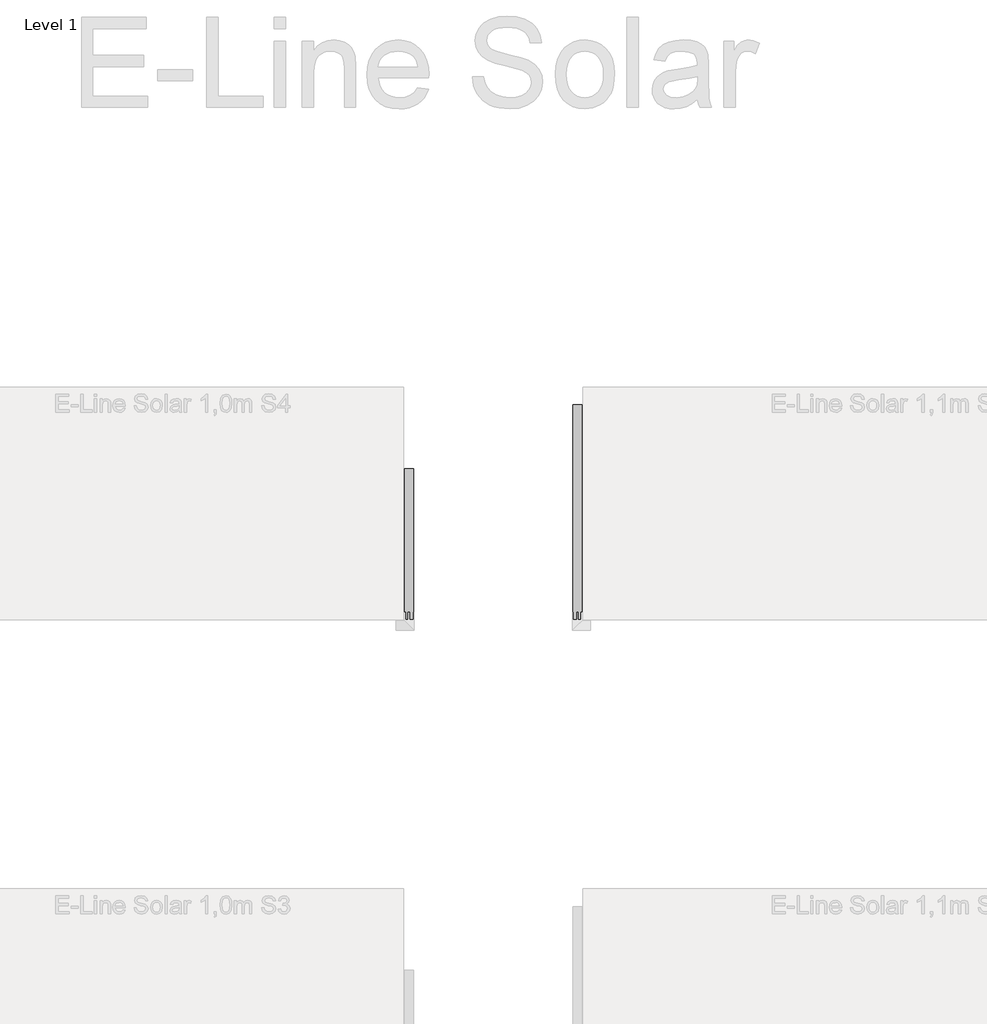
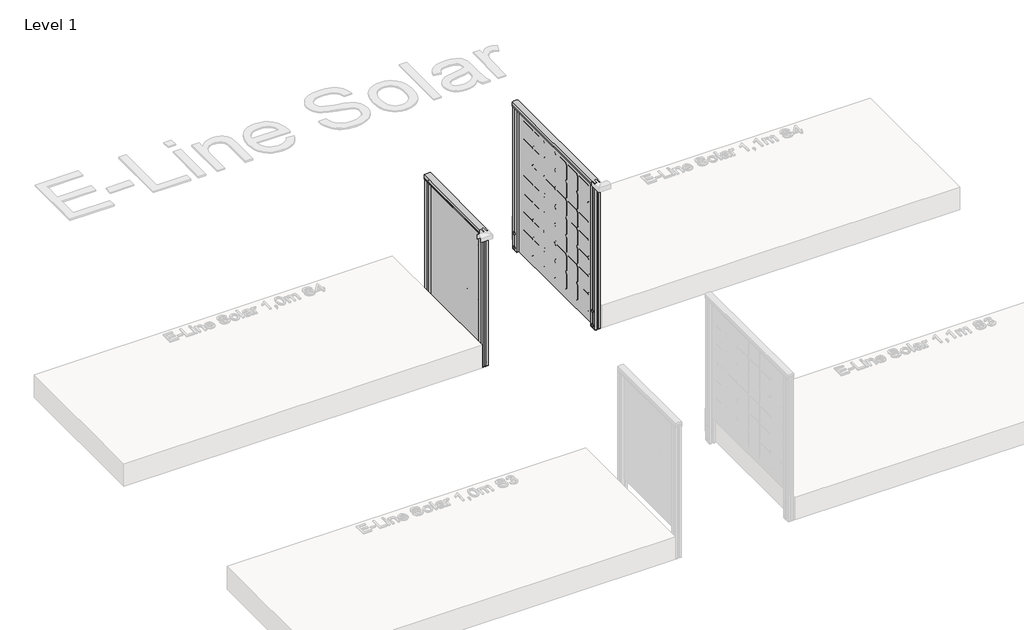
# One storey, part 38 of 66: 2 railings.
"""IFC4 building model written with IfcOpenShell, lengths in millimetres."""

import ifcopenshell
import ifcopenshell.guid

model = None  # the IFC model being written
_history = None  # IfcOwnerHistory: only IFC2X3 demands one
_inside = {}  # id of a spatial element -> (the spatial element, [elements in it])
_under = {}  # id of a project, library or spatial element -> (it, [spatial elements below it])
_declared = {}  # id of a project -> (the project, [libraries it declares])
_typed = {}  # id of a type object -> (the type object, [elements of that type])
_made_of = {}  # id of a material, layer set ... -> (it, [elements and type objects made of it])


def new_model(schema):
    """Start an empty IFC model of exactly this schema.

    Asked for "IFC4X3", IfcOpenShell would pick the latest addendum, in which some entities
    have other attributes; the version numbers below select the first issue.
    IFC2X3 requires an IfcOwnerHistory on every rooted entity: one is made here for all.
    """
    global model, _history
    if schema == "IFC4X3":
        model = ifcopenshell.file(schema_version=(4, 3, 0, 0))
    else:
        model = ifcopenshell.file(schema=schema)
    _inside.clear()
    _under.clear()
    _declared.clear()
    _typed.clear()
    _made_of.clear()
    _history = None
    if model.schema == "IFC2X3":
        org = make("IfcOrganization", Name="unknown")
        user = make(
            "IfcPersonAndOrganization",
            ThePerson=make("IfcPerson", FamilyName="unknown"),
            TheOrganization=org,
        )
        app = make(
            "IfcApplication",
            ApplicationDeveloper=org,
            Version="unknown",
            ApplicationFullName="unknown",
            ApplicationIdentifier="unknown",
        )
        _history = make(
            "IfcOwnerHistory",
            OwningUser=user,
            OwningApplication=app,
            ChangeAction="ADDED",
            CreationDate=0,
        )
    return model


def make(cls, **values):
    """One entity of the class cls with the attributes given. An attribute that is None is left unset."""
    return model.create_entity(
        cls, **{name: value for name, value in values.items() if value is not None}
    )


def rooted(cls, **values):
    """An entity with a GlobalId (a new one), such as an element, a storey or a relation."""
    return make(cls, GlobalId=ifcopenshell.guid.new(), OwnerHistory=_history, **values)


def si_unit(unit_type, name, prefix=None):
    """IfcSIUnit, for example si_unit("LENGTHUNIT", "METRE", prefix="MILLI")."""
    return make("IfcSIUnit", UnitType=unit_type, Prefix=prefix, Name=name)


def assignment(units):
    """IfcUnitAssignment: the units of a project."""
    return None if units is None else make("IfcUnitAssignment", Units=units)


def point(xyz):
    """IfcCartesianPoint."""
    return None if xyz is None else make("IfcCartesianPoint", Coordinates=xyz)


def direction(xyz):
    """IfcDirection."""
    return None if xyz is None else make("IfcDirection", DirectionRatios=xyz)


def frame(location, z_axis=None, x_axis=None):
    """IfcAxis2Placement3D, a coordinate frame: its origin and axes. An axis left out is left unset."""
    return make(
        "IfcAxis2Placement3D",
        Location=point(location),
        Axis=direction(z_axis),
        RefDirection=direction(x_axis),
    )


def frame_2d(location, x_axis=None):
    """IfcAxis2Placement2D, a coordinate frame in the plane: its origin and x axis."""
    return make(
        "IfcAxis2Placement2D", Location=point(location), RefDirection=direction(x_axis)
    )


def origin():
    """The frame at (0, 0, 0) with its axes left unset."""
    return frame((0.0, 0.0, 0.0))


def place(relative_to, where):
    """IfcLocalPlacement: puts the frame where relative to a parent placement (None: the world)."""
    return make(
        "IfcLocalPlacement", PlacementRelTo=relative_to, RelativePlacement=where
    )


def context(
    kind, dimensions, precision=None, world=None, true_north=None, identifier=None
):
    """IfcGeometricRepresentationContext, for example the 3D "Model" context."""
    return make(
        "IfcGeometricRepresentationContext",
        ContextIdentifier=identifier,
        ContextType=kind,
        CoordinateSpaceDimension=dimensions,
        Precision=precision,
        WorldCoordinateSystem=world,
        TrueNorth=true_north,
    )


def project(units=None, contexts=None):
    """IfcProject with its units and contexts."""
    return rooted(
        "IfcProject",
        Name="project",
        RepresentationContexts=contexts,
        UnitsInContext=assignment(units),
    )


def spatial(cls, under=None, at=None, **own):
    """A site, building, storey or space (cls), placed at a placement, below another one or the project."""
    s = rooted(cls, ObjectPlacement=at, **own)
    if under is not None:
        _under.setdefault(under.id(), (under, []))[1].append(s)
    return s


def polyline(points):
    """IfcPolyline through the points."""
    return make("IfcPolyline", Points=[point(p) for p in points])


def circle_curve(where, radius):
    """IfcCircle in the frame where."""
    return make("IfcCircle", Position=where, Radius=radius)


def trimmed(basis, trim1, trim2, sense, master):
    """IfcTrimmedCurve: the piece of a basis curve between two trims."""
    return make(
        "IfcTrimmedCurve",
        BasisCurve=basis,
        Trim1=trim1,
        Trim2=trim2,
        SenseAgreement=sense,
        MasterRepresentation=master,
    )


def segment(curve, same_sense, transition):
    """IfcCompositeCurveSegment."""
    return make(
        "IfcCompositeCurveSegment",
        Transition=transition,
        SameSense=same_sense,
        ParentCurve=curve,
    )


def composite_curve(segments, self_intersect=None):
    """IfcCompositeCurve: segments joined end to end."""
    return make("IfcCompositeCurve", Segments=segments, SelfIntersect=self_intersect)


def outline(outer, holes=None, kind="AREA"):
    """IfcArbitraryClosedProfileDef: a profile drawn as a closed curve; with holes, ...WithVoids."""
    if holes is None:
        return make("IfcArbitraryClosedProfileDef", ProfileType=kind, OuterCurve=outer)
    return make(
        "IfcArbitraryProfileDefWithVoids",
        ProfileType=kind,
        OuterCurve=outer,
        InnerCurves=holes,
    )


def extrude(swept, where, along, depth):
    """IfcExtrudedAreaSolid: the profile swept, set in the frame where, extruded along a direction by depth."""
    return make(
        "IfcExtrudedAreaSolid",
        SweptArea=swept,
        Position=where,
        ExtrudedDirection=direction(along),
        Depth=depth,
    )


def shape(context_of_items, identifier, shape_type, items):
    """IfcShapeRepresentation: the items that make up one representation, for example the "Body"."""
    return make(
        "IfcShapeRepresentation",
        ContextOfItems=context_of_items,
        RepresentationIdentifier=identifier,
        RepresentationType=shape_type,
        Items=items,
    )


def made_of(thing, what):
    """Note that an element or type object is made of a material, layer set ...; save() writes the relation."""
    if what is not None:
        _made_of.setdefault(what.id(), (what, []))[1].append(thing)
    return thing


def element(
    cls,
    number,
    at=None,
    inside=None,
    cuts=None,
    type_object=None,
    material=None,
    context=None,
    identifier="Body",
    shape_type=None,
    held_by="IfcProductDefinitionShape",
    body=None,
    shapes=None,
    **own,
):
    """One element of the class cls, such as IfcWall. Its Tag is "e" and its number.

    at: its placement. inside: the storey or other place that contains it. cuts: it is an
    opening in that element (IfcRelVoidsElement). A single representation is given by context,
    identifier, shape_type and body (its items); several are given by shapes. held_by: the class
    of the entity that holds the representations. save() writes the other relations.
    """
    e = rooted(cls, Tag="e%d" % number, ObjectPlacement=at, **own)
    if body is not None:
        shapes = [shape(context, identifier, shape_type, body)]
    if shapes is not None:
        e.Representation = make(held_by, Representations=shapes)
    if inside is not None:
        _inside.setdefault(inside.id(), (inside, []))[1].append(e)
    if cuts is not None:
        rooted(
            "IfcRelVoidsElement", RelatingBuildingElement=cuts, RelatedOpeningElement=e
        )
    if type_object is not None:
        _typed.setdefault(type_object.id(), (type_object, []))[1].append(e)
    return made_of(e, material)


def aggregate(whole, parts):
    """IfcRelAggregates: a whole, such as a stair, and the parts it consists of."""
    return rooted("IfcRelAggregates", RelatingObject=whole, RelatedObjects=parts)


def save(model, path):
    """Write the relations noted so far, then the file.

    IfcRelAggregates (storeys below a building ...), IfcRelContainedInSpatialStructure (elements
    in a storey), IfcRelDefinesByType, IfcRelAssociatesMaterial and IfcRelDeclares: one each for
    every whole, place, type object, material and project.
    """
    for whole, parts in _under.values():
        aggregate(whole, parts)
    for where, things in _inside.values():
        rooted(
            "IfcRelContainedInSpatialStructure",
            RelatedElements=things,
            RelatingStructure=where,
        )
    for kind, things in _typed.values():
        rooted("IfcRelDefinesByType", RelatedObjects=things, RelatingType=kind)
    for what, things in _made_of.values():
        rooted("IfcRelAssociatesMaterial", RelatedObjects=things, RelatingMaterial=what)
    for by, libraries in _declared.values():
        rooted("IfcRelDeclares", RelatingContext=by, RelatedDefinitions=libraries)
    model.write(path)


model = new_model("IFC4")

# Units and contexts
model_context = context("Model", 3, world=origin())
ifc_project = project(units=[si_unit("LENGTHUNIT", "METRE", prefix="MILLI")], contexts=[model_context])

# Site, building, storey
site = spatial("IfcSite", under=ifc_project)
building = spatial("IfcBuilding", under=site)
storey = spatial("IfcBuildingStorey", under=building, Name="Level 1", Elevation=0.0)

# Railings
placement = place(None, origin())
element("IfcRailing", 1, ObjectType="E-Line Solar 1,1m S4 6 columns of solar elements", at=placement, inside=storey, context=model_context, shape_type="SweptSolid", body=[
    extrude(outline(composite_curve([segment(trimmed(circle_curve(frame_2d((1042.6785502, 19265.8109342)), 57.3235687), [point((1094.1390059, 19291.0658945))], [point((1094.1342258, 19240.5462362))], False, "CARTESIAN"), True, "CONTINUOUS"), segment(polyline([(1094.1342258, 19240.5462362), (1067.0235023, 19240.5462362), (1066.4415706, 19241.128168), (1065.8194895, 19240.5060869), (1057.2498847, 19240.5060869), (1057.2498847, 19242.3110398), (1080.4998829, 19242.3110398), (1080.4998829, 19289.306086), (1057.2498847, 19289.306086), (1057.2498847, 19291.0658945), (1065.9694895, 19291.0658945), (1066.5842725, 19290.4511115), (1067.1990555, 19291.0658945), (1094.1390059, 19291.0658945)]), True, "CONTINUOUS")], self_intersect=False)), frame((0.0, 3023.8815979, 0.0), z_axis=(0.0, 1.0, 0.0), x_axis=(0.0, 0.0, 1.0)), (0.0, 0.0, 1.0), 1195.0),
    extrude(outline(polyline([(19265.6306934, 4218.8815979), (19267.4943763, 4218.8815979), (19267.4943763, 3023.8815979), (19265.6306934, 3023.8815979), (19265.6306934, 4218.8815979)])), frame((0.0, 0.0, -200.0), z_axis=(0.0, 0.0, 1.0), x_axis=(1.0, 0.0, 0.0)), (0.0, 0.0, 1.0), 1.1703418),
    extrude(outline(polyline([(19262.1463105, 4218.8815979), (19270.9063105, 4218.8815979), (19270.9063105, 3023.8815979), (19262.1463105, 3023.8815979), (19262.1463105, 4218.8815979)])), frame((0.0, 0.0, -200.0), z_axis=(0.0, 0.0, 1.0), x_axis=(1.0, 0.0, 0.0)), (0.0, 0.0, 1.0), 1280.0),
    extrude(outline(polyline([(0.0, 0.0), (-16.036927, 16.036927), (-16.036927, 139.963073), (0.0, 156.0), (123.9261459, 156.0), (139.963073, 139.963073), (139.963073, 16.036927), (123.9261459, 0.0), (0.0, 0.0)])), frame((19262.0263105, 3945.8815979, 984.4156895), z_axis=(1.0, -5.811291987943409e-12, 0.0), x_axis=(0.0, 0.0, -1.0)), (0.0, 0.0, 1.0), 1.0),
    extrude(outline(polyline([(0.0, 0.0), (-16.036927, 16.036927), (-16.036927, 139.963073), (0.0, 156.0), (123.9261459, 156.0), (139.963073, 139.963073), (139.963073, 16.036927), (123.9261459, 0.0), (0.0, 0.0)])), frame((19262.0263105, 3784.8815979, 984.4156895), z_axis=(1.0, -5.811291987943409e-12, 0.0), x_axis=(0.0, 0.0, -1.0)), (0.0, 0.0, 1.0), 1.0),
    extrude(outline(polyline([(0.0, 0.0), (-16.036927, 16.036927), (-16.036927, 139.963073), (0.0, 156.0), (123.9261459, 156.0), (139.963073, 139.963073), (139.963073, 16.036927), (123.9261459, 0.0), (0.0, 0.0)])), frame((19262.0263105, 3623.8815979, 984.4156895), z_axis=(1.0, -5.811291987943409e-12, 0.0), x_axis=(0.0, 0.0, -1.0)), (0.0, 0.0, 1.0), 1.0),
    extrude(outline(polyline([(0.0, 0.0), (-16.036927, 16.036927), (-16.036927, 139.963073), (0.0, 156.0), (123.9261459, 156.0), (139.963073, 139.963073), (139.963073, 16.036927), (123.9261459, 0.0), (0.0, 0.0)])), frame((19262.0263105, 3140.8815979, 984.4156895), z_axis=(1.0, -5.811291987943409e-12, 0.0), x_axis=(0.0, 0.0, -1.0)), (0.0, 0.0, 1.0), 1.0),
    extrude(outline(polyline([(0.0, 0.0), (-16.036927, 16.036927), (-16.036927, 139.963073), (0.0, 156.0), (123.9261459, 156.0), (139.963073, 139.963073), (139.963073, 16.036927), (123.9261459, 0.0), (0.0, 0.0)])), frame((19262.0263105, 3301.8815979, 984.4156895), z_axis=(1.0, -5.811291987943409e-12, 0.0), x_axis=(0.0, 0.0, -1.0)), (0.0, 0.0, 1.0), 1.0),
    extrude(outline(polyline([(0.0, 0.0), (-16.036927, 16.036927), (-16.036927, 139.963073), (0.0, 156.0), (123.9261459, 156.0), (139.963073, 139.963073), (139.963073, 16.036927), (123.9261459, 0.0), (0.0, 0.0)])), frame((19262.0263105, 3462.8815979, 984.4156895), z_axis=(1.0, -5.811291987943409e-12, 0.0), x_axis=(0.0, 0.0, -1.0)), (0.0, 0.0, 1.0), 1.0),
    extrude(outline(polyline([(0.0, 0.0), (-16.036927, 16.036927), (-16.036927, 139.963073), (0.0, 156.0), (123.9261459, 156.0), (139.963073, 139.963073), (139.963073, 16.036927), (123.9261459, 0.0), (0.0, 0.0)])), frame((19262.0263105, 3945.8815979, 823.4156895), z_axis=(1.0, -5.811291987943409e-12, 0.0), x_axis=(0.0, 0.0, -1.0)), (0.0, 0.0, 1.0), 1.0),
    extrude(outline(polyline([(0.0, 0.0), (-16.036927, 16.036927), (-16.036927, 139.963073), (0.0, 156.0), (123.9261459, 156.0), (139.963073, 139.963073), (139.963073, 16.036927), (123.9261459, 0.0), (0.0, 0.0)])), frame((19262.0263105, 3784.8815979, 823.4156895), z_axis=(1.0, -5.811291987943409e-12, 0.0), x_axis=(0.0, 0.0, -1.0)), (0.0, 0.0, 1.0), 1.0),
    extrude(outline(polyline([(0.0, 0.0), (-16.036927, 16.036927), (-16.036927, 139.963073), (0.0, 156.0), (123.9261459, 156.0), (139.963073, 139.963073), (139.963073, 16.036927), (123.9261459, 0.0), (0.0, 0.0)])), frame((19262.0263105, 3623.8815979, 823.4156895), z_axis=(1.0, -5.811291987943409e-12, 0.0), x_axis=(0.0, 0.0, -1.0)), (0.0, 0.0, 1.0), 1.0),
    extrude(outline(polyline([(0.0, 0.0), (-16.036927, 16.036927), (-16.036927, 139.963073), (0.0, 156.0), (123.9261459, 156.0), (139.963073, 139.963073), (139.963073, 16.036927), (123.9261459, 0.0), (0.0, 0.0)])), frame((19262.0263105, 3140.8815979, 823.4156895), z_axis=(1.0, -5.811291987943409e-12, 0.0), x_axis=(0.0, 0.0, -1.0)), (0.0, 0.0, 1.0), 1.0),
    extrude(outline(polyline([(0.0, 0.0), (-16.036927, 16.036927), (-16.036927, 139.963073), (0.0, 156.0), (123.9261459, 156.0), (139.963073, 139.963073), (139.963073, 16.036927), (123.9261459, 0.0), (0.0, 0.0)])), frame((19262.0263105, 3301.8815979, 823.4156895), z_axis=(1.0, -5.811291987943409e-12, 0.0), x_axis=(0.0, 0.0, -1.0)), (0.0, 0.0, 1.0), 1.0),
    extrude(outline(polyline([(0.0, 0.0), (-16.036927, 16.036927), (-16.036927, 139.963073), (0.0, 156.0), (123.9261459, 156.0), (139.963073, 139.963073), (139.963073, 16.036927), (123.9261459, 0.0), (0.0, 0.0)])), frame((19262.0263105, 3462.8815979, 823.4156895), z_axis=(1.0, -5.811291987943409e-12, 0.0), x_axis=(0.0, 0.0, -1.0)), (0.0, 0.0, 1.0), 1.0),
    extrude(outline(polyline([(0.0, 0.0), (-16.036927, 16.036927), (-16.036927, 139.963073), (0.0, 156.0), (123.9261459, 156.0), (139.963073, 139.963073), (139.963073, 16.036927), (123.9261459, 0.0), (0.0, 0.0)])), frame((19262.0263105, 3945.8815979, 662.4156895), z_axis=(1.0, -5.811291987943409e-12, 0.0), x_axis=(0.0, 0.0, -1.0)), (0.0, 0.0, 1.0), 1.0),
    extrude(outline(polyline([(0.0, 0.0), (-16.036927, 16.036927), (-16.036927, 139.963073), (0.0, 156.0), (123.9261459, 156.0), (139.963073, 139.963073), (139.963073, 16.036927), (123.9261459, 0.0), (0.0, 0.0)])), frame((19262.0263105, 3945.8815979, 501.4156895), z_axis=(1.0, -5.811291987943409e-12, 0.0), x_axis=(0.0, 0.0, -1.0)), (0.0, 0.0, 1.0), 1.0),
    extrude(outline(polyline([(0.0, 0.0), (-16.036927, 16.036927), (-16.036927, 139.963073), (0.0, 156.0), (123.9261459, 156.0), (139.963073, 139.963073), (139.963073, 16.036927), (123.9261459, 0.0), (0.0, 0.0)])), frame((19262.0263105, 3945.8815979, 340.4156895), z_axis=(1.0, -5.811291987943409e-12, 0.0), x_axis=(0.0, 0.0, -1.0)), (0.0, 0.0, 1.0), 1.0),
    extrude(outline(polyline([(0.0, 0.0), (-16.036927, 16.036927), (-16.036927, 139.963073), (0.0, 156.0), (123.9261459, 156.0), (139.963073, 139.963073), (139.963073, 16.036927), (123.9261459, 0.0), (0.0, 0.0)])), frame((19262.0263105, 3945.8815979, 179.4156895), z_axis=(1.0, -5.811291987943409e-12, 0.0), x_axis=(0.0, 0.0, -1.0)), (0.0, 0.0, 1.0), 1.0),
    extrude(outline(polyline([(0.0, 0.0), (-16.036927, 16.036927), (-16.036927, 139.963073), (0.0, 156.0), (123.9261459, 156.0), (139.963073, 139.963073), (139.963073, 16.036927), (123.9261459, 0.0), (0.0, 0.0)])), frame((19262.0263105, 3945.8815979, 18.4156895), z_axis=(1.0, -5.811291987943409e-12, 0.0), x_axis=(0.0, 0.0, -1.0)), (0.0, 0.0, 1.0), 1.0),
    extrude(outline(polyline([(0.0, 0.0), (-16.036927, 16.036927), (-16.036927, 139.963073), (0.0, 156.0), (123.9261459, 156.0), (139.963073, 139.963073), (139.963073, 16.036927), (123.9261459, 0.0), (0.0, 0.0)])), frame((19262.0263105, 3784.8815979, 662.4156895), z_axis=(1.0, -5.811291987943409e-12, 0.0), x_axis=(0.0, 0.0, -1.0)), (0.0, 0.0, 1.0), 1.0),
    extrude(outline(polyline([(0.0, 0.0), (-16.036927, 16.036927), (-16.036927, 139.963073), (0.0, 156.0), (123.9261459, 156.0), (139.963073, 139.963073), (139.963073, 16.036927), (123.9261459, 0.0), (0.0, 0.0)])), frame((19262.0263105, 3784.8815979, 501.4156895), z_axis=(1.0, -5.811291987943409e-12, 0.0), x_axis=(0.0, 0.0, -1.0)), (0.0, 0.0, 1.0), 1.0),
    extrude(outline(polyline([(0.0, 0.0), (-16.036927, 16.036927), (-16.036927, 139.963073), (0.0, 156.0), (123.9261459, 156.0), (139.963073, 139.963073), (139.963073, 16.036927), (123.9261459, 0.0), (0.0, 0.0)])), frame((19262.0263105, 3784.8815979, 340.4156895), z_axis=(1.0, -5.811291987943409e-12, 0.0), x_axis=(0.0, 0.0, -1.0)), (0.0, 0.0, 1.0), 1.0),
    extrude(outline(polyline([(0.0, 0.0), (-16.036927, 16.036927), (-16.036927, 139.963073), (0.0, 156.0), (123.9261459, 156.0), (139.963073, 139.963073), (139.963073, 16.036927), (123.9261459, 0.0), (0.0, 0.0)])), frame((19262.0263105, 3784.8815979, 179.4156895), z_axis=(1.0, -5.811291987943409e-12, 0.0), x_axis=(0.0, 0.0, -1.0)), (0.0, 0.0, 1.0), 1.0),
    extrude(outline(polyline([(0.0, 0.0), (-16.036927, 16.036927), (-16.036927, 139.963073), (0.0, 156.0), (123.9261459, 156.0), (139.963073, 139.963073), (139.963073, 16.036927), (123.9261459, 0.0), (0.0, 0.0)])), frame((19262.0263105, 3784.8815979, 18.4156895), z_axis=(1.0, -5.811291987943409e-12, 0.0), x_axis=(0.0, 0.0, -1.0)), (0.0, 0.0, 1.0), 1.0),
    extrude(outline(polyline([(0.0, 0.0), (-16.036927, 16.036927), (-16.036927, 139.963073), (0.0, 156.0), (123.9261459, 156.0), (139.963073, 139.963073), (139.963073, 16.036927), (123.9261459, 0.0), (0.0, 0.0)])), frame((19262.0263105, 3623.8815979, 662.4156895), z_axis=(1.0, -5.811291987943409e-12, 0.0), x_axis=(0.0, 0.0, -1.0)), (0.0, 0.0, 1.0), 1.0),
    extrude(outline(polyline([(0.0, 0.0), (-16.036927, 16.036927), (-16.036927, 139.963073), (0.0, 156.0), (123.9261459, 156.0), (139.963073, 139.963073), (139.963073, 16.036927), (123.9261459, 0.0), (0.0, 0.0)])), frame((19262.0263105, 3623.8815979, 501.4156895), z_axis=(1.0, -5.811291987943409e-12, 0.0), x_axis=(0.0, 0.0, -1.0)), (0.0, 0.0, 1.0), 1.0),
    extrude(outline(polyline([(0.0, 0.0), (-16.036927, 16.036927), (-16.036927, 139.963073), (0.0, 156.0), (123.9261459, 156.0), (139.963073, 139.963073), (139.963073, 16.036927), (123.9261459, 0.0), (0.0, 0.0)])), frame((19262.0263105, 3623.8815979, 340.4156895), z_axis=(1.0, -5.811291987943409e-12, 0.0), x_axis=(0.0, 0.0, -1.0)), (0.0, 0.0, 1.0), 1.0),
    extrude(outline(polyline([(0.0, 0.0), (-16.036927, 16.036927), (-16.036927, 139.963073), (0.0, 156.0), (123.9261459, 156.0), (139.963073, 139.963073), (139.963073, 16.036927), (123.9261459, 0.0), (0.0, 0.0)])), frame((19262.0263105, 3623.8815979, 179.4156895), z_axis=(1.0, -5.811291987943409e-12, 0.0), x_axis=(0.0, 0.0, -1.0)), (0.0, 0.0, 1.0), 1.0),
    extrude(outline(polyline([(0.0, 0.0), (-16.036927, 16.036927), (-16.036927, 139.963073), (0.0, 156.0), (123.9261459, 156.0), (139.963073, 139.963073), (139.963073, 16.036927), (123.9261459, 0.0), (0.0, 0.0)])), frame((19262.0263105, 3623.8815979, 18.4156895), z_axis=(1.0, -5.811291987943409e-12, 0.0), x_axis=(0.0, 0.0, -1.0)), (0.0, 0.0, 1.0), 1.0),
    extrude(outline(polyline([(0.0, 0.0), (-16.036927, 16.036927), (-16.036927, 139.963073), (0.0, 156.0), (123.9261459, 156.0), (139.963073, 139.963073), (139.963073, 16.036927), (123.9261459, 0.0), (0.0, 0.0)])), frame((19262.0263105, 3140.8815979, 662.4156895), z_axis=(1.0, -5.811291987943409e-12, 0.0), x_axis=(0.0, 0.0, -1.0)), (0.0, 0.0, 1.0), 1.0),
    extrude(outline(polyline([(0.0, 0.0), (-16.036927, 16.036927), (-16.036927, 139.963073), (0.0, 156.0), (123.9261459, 156.0), (139.963073, 139.963073), (139.963073, 16.036927), (123.9261459, 0.0), (0.0, 0.0)])), frame((19262.0263105, 3140.8815979, 501.4156895), z_axis=(1.0, -5.811291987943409e-12, 0.0), x_axis=(0.0, 0.0, -1.0)), (0.0, 0.0, 1.0), 1.0),
    extrude(outline(polyline([(0.0, 0.0), (-16.036927, 16.036927), (-16.036927, 139.963073), (0.0, 156.0), (123.9261459, 156.0), (139.963073, 139.963073), (139.963073, 16.036927), (123.9261459, 0.0), (0.0, 0.0)])), frame((19262.0263105, 3140.8815979, 340.4156895), z_axis=(1.0, -5.811291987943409e-12, 0.0), x_axis=(0.0, 0.0, -1.0)), (0.0, 0.0, 1.0), 1.0),
    extrude(outline(polyline([(0.0, 0.0), (-16.036927, 16.036927), (-16.036927, 139.963073), (0.0, 156.0), (123.9261459, 156.0), (139.963073, 139.963073), (139.963073, 16.036927), (123.9261459, 0.0), (0.0, 0.0)])), frame((19262.0263105, 3140.8815979, 179.4156895), z_axis=(1.0, -5.811291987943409e-12, 0.0), x_axis=(0.0, 0.0, -1.0)), (0.0, 0.0, 1.0), 1.0),
    extrude(outline(polyline([(0.0, 0.0), (-16.036927, 16.036927), (-16.036927, 139.963073), (0.0, 156.0), (123.9261459, 156.0), (139.963073, 139.963073), (139.963073, 16.036927), (123.9261459, 0.0), (0.0, 0.0)])), frame((19262.0263105, 3140.8815979, 18.4156895), z_axis=(1.0, -5.811291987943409e-12, 0.0), x_axis=(0.0, 0.0, -1.0)), (0.0, 0.0, 1.0), 1.0),
    extrude(outline(polyline([(0.0, 0.0), (-16.036927, 16.036927), (-16.036927, 139.963073), (0.0, 156.0), (123.9261459, 156.0), (139.963073, 139.963073), (139.963073, 16.036927), (123.9261459, 0.0), (0.0, 0.0)])), frame((19262.0263105, 3301.8815979, 662.4156895), z_axis=(1.0, -5.811291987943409e-12, 0.0), x_axis=(0.0, 0.0, -1.0)), (0.0, 0.0, 1.0), 1.0),
    extrude(outline(polyline([(0.0, 0.0), (-16.036927, 16.036927), (-16.036927, 139.963073), (0.0, 156.0), (123.9261459, 156.0), (139.963073, 139.963073), (139.963073, 16.036927), (123.9261459, 0.0), (0.0, 0.0)])), frame((19262.0263105, 3301.8815979, 501.4156895), z_axis=(1.0, -5.811291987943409e-12, 0.0), x_axis=(0.0, 0.0, -1.0)), (0.0, 0.0, 1.0), 1.0),
    extrude(outline(polyline([(0.0, 0.0), (-16.036927, 16.036927), (-16.036927, 139.963073), (0.0, 156.0), (123.9261459, 156.0), (139.963073, 139.963073), (139.963073, 16.036927), (123.9261459, 0.0), (0.0, 0.0)])), frame((19262.0263105, 3301.8815979, 340.4156895), z_axis=(1.0, -5.811291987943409e-12, 0.0), x_axis=(0.0, 0.0, -1.0)), (0.0, 0.0, 1.0), 1.0),
    extrude(outline(polyline([(0.0, 0.0), (-16.036927, 16.036927), (-16.036927, 139.963073), (0.0, 156.0), (123.9261459, 156.0), (139.963073, 139.963073), (139.963073, 16.036927), (123.9261459, 0.0), (0.0, 0.0)])), frame((19262.0263105, 3301.8815979, 179.4156895), z_axis=(1.0, -5.811291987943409e-12, 0.0), x_axis=(0.0, 0.0, -1.0)), (0.0, 0.0, 1.0), 1.0),
    extrude(outline(polyline([(0.0, 0.0), (-16.036927, 16.036927), (-16.036927, 139.963073), (0.0, 156.0), (123.9261459, 156.0), (139.963073, 139.963073), (139.963073, 16.036927), (123.9261459, 0.0), (0.0, 0.0)])), frame((19262.0263105, 3301.8815979, 18.4156895), z_axis=(1.0, -5.811291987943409e-12, 0.0), x_axis=(0.0, 0.0, -1.0)), (0.0, 0.0, 1.0), 1.0),
    extrude(outline(polyline([(0.0, 0.0), (-16.036927, 16.036927), (-16.036927, 139.963073), (0.0, 156.0), (123.9261459, 156.0), (139.963073, 139.963073), (139.963073, 16.036927), (123.9261459, 0.0), (0.0, 0.0)])), frame((19262.0263105, 3462.8815979, 662.4156895), z_axis=(1.0, -5.811291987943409e-12, 0.0), x_axis=(0.0, 0.0, -1.0)), (0.0, 0.0, 1.0), 1.0),
    extrude(outline(polyline([(0.0, 0.0), (-16.036927, 16.036927), (-16.036927, 139.963073), (0.0, 156.0), (123.9261459, 156.0), (139.963073, 139.963073), (139.963073, 16.036927), (123.9261459, 0.0), (0.0, 0.0)])), frame((19262.0263105, 3462.8815979, 501.4156895), z_axis=(1.0, -5.811291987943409e-12, 0.0), x_axis=(0.0, 0.0, -1.0)), (0.0, 0.0, 1.0), 1.0),
    extrude(outline(polyline([(0.0, 0.0), (-16.036927, 16.036927), (-16.036927, 139.963073), (0.0, 156.0), (123.9261459, 156.0), (139.963073, 139.963073), (139.963073, 16.036927), (123.9261459, 0.0), (0.0, 0.0)])), frame((19262.0263105, 3462.8815979, 340.4156895), z_axis=(1.0, -5.811291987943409e-12, 0.0), x_axis=(0.0, 0.0, -1.0)), (0.0, 0.0, 1.0), 1.0),
    extrude(outline(polyline([(0.0, 0.0), (-16.036927, 16.036927), (-16.036927, 139.963073), (0.0, 156.0), (123.9261459, 156.0), (139.963073, 139.963073), (139.963073, 16.036927), (123.9261459, 0.0), (0.0, 0.0)])), frame((19262.0263105, 3462.8815979, 179.4156895), z_axis=(1.0, -5.811291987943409e-12, 0.0), x_axis=(0.0, 0.0, -1.0)), (0.0, 0.0, 1.0), 1.0),
    extrude(outline(polyline([(0.0, 0.0), (-16.036927, 16.036927), (-16.036927, 139.963073), (0.0, 156.0), (123.9261459, 156.0), (139.963073, 139.963073), (139.963073, 16.036927), (123.9261459, 0.0), (0.0, 0.0)])), frame((19262.0263105, 3462.8815979, 18.4156895), z_axis=(1.0, -5.811291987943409e-12, 0.0), x_axis=(0.0, 0.0, -1.0)), (0.0, 0.0, 1.0), 1.0),
    extrude(outline(polyline([(19270.8721725, 3023.883191), (19270.8747497, 3041.3831908), (19262.1147498, 3041.3844809), (19262.1121726, 3023.8844811), (19244.0573652, 3023.88714), (19244.0616532, 3053.004127), (19244.9400753, 3053.8822904), (19244.021743, 3054.9201583), (19244.0260089, 3083.8871452), (19262.1210087, 3083.8844804), (19262.1184315, 3066.3844806), (19270.8784314, 3066.3831905), (19270.8810086, 3083.8831903), (19288.9859597, 3083.880524), (19288.9816865, 3054.8640485), (19287.9932969, 3053.87595), (19289.0214382, 3052.8475058), (19289.0171723, 3023.8805188), (19270.8721725, 3023.883191)]), holes=[polyline([(19246.0202949, 3062.6808129), (19246.0202949, 3045.0868512), (19287.0228863, 3045.0868512), (19287.0228863, 3062.6808129), (19246.0202949, 3062.6808129)]), polyline([(19272.878181, 3081.8808127), (19272.878181, 3064.682896), (19287.0257139, 3064.682896), (19287.0257139, 3081.8808127), (19272.878181, 3081.8808127)]), polyline([(19246.0202949, 3081.884775), (19246.0202949, 3064.6868513), (19260.1207142, 3064.6868513), (19260.1207142, 3081.884775), (19246.0202949, 3081.884775)]), polyline([(19272.872467, 3043.0808132), (19272.872467, 3025.8828965), (19287.0199999, 3025.8828965), (19287.0199999, 3043.0808132), (19272.872467, 3043.0808132)]), polyline([(19245.9674673, 3043.0847754), (19245.9674673, 3025.8868587), (19260.1150002, 3025.8868587), (19260.1150002, 3043.0847754), (19245.9674673, 3043.0847754)])]), frame((0.0, 0.0, -200.0), z_axis=(0.0, 0.0, 1.0), x_axis=(1.0, 0.0, 0.0)), (0.0, 0.0, 1.0), 1281.0),
    extrude(outline(polyline([(19270.8721725, 3023.883191), (19270.8747497, 3041.3831908), (19262.1147498, 3041.3844809), (19262.1121726, 3023.8844811), (19244.0573652, 3023.88714), (19244.0616532, 3053.004127), (19244.9400753, 3053.8822904), (19244.021743, 3054.9201583), (19244.0260089, 3083.8871452), (19262.1210087, 3083.8844804), (19262.1184315, 3066.3844806), (19270.8784314, 3066.3831905), (19270.8810086, 3083.8831903), (19288.9859597, 3083.880524), (19288.9816865, 3054.8640485), (19287.9932969, 3053.87595), (19289.0214382, 3052.8475058), (19289.0171723, 3023.8805188), (19270.8721725, 3023.883191)])), frame((0.0, 0.0, -202.0233958), z_axis=(0.0, 0.0, 1.0), x_axis=(1.0, 0.0, 0.0)), (0.0, 0.0, 1.0), 2.0),
    extrude(outline(composite_curve([segment(trimmed(circle_curve(frame_2d((0.0, 12.0)), 12.0), [point((0.0, 23.9999999))], [point((0.0, 0.0))], False, "CARTESIAN"), True, "CONTINUOUS"), segment(trimmed(circle_curve(frame_2d((0.0, 12.0)), 12.0), [point((0.0, 0.0))], [point((0.0, 23.9999999))], False, "CARTESIAN"), True, "CONTINUOUS")], self_intersect=False)), frame((19244.0668454, 3065.8906355, -175.0), z_axis=(-0.9999999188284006, 0.0004029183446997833, 0.0), x_axis=(0.0, 0.0, -1.0)), (0.0, 0.0, 1.0), 3.0757477),
    extrude(outline(composite_curve([segment(trimmed(circle_curve(frame_2d((0.0, 12.0)), 12.0), [point((0.0, 23.9999999))], [point((0.0, 0.0))], False, "CARTESIAN"), True, "CONTINUOUS"), segment(trimmed(circle_curve(frame_2d((0.0, 12.0)), 12.0), [point((0.0, 0.0))], [point((0.0, 23.9999999))], False, "CARTESIAN"), True, "CONTINUOUS")], self_intersect=False)), frame((19244.0668454, 3065.8906355, -50.0), z_axis=(-0.9999999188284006, 0.0004029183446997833, 0.0), x_axis=(0.0, 0.0, -1.0)), (0.0, 0.0, 1.0), 3.0757477),
    extrude(outline(polyline([(19270.8721725, 4158.883191), (19270.8747497, 4176.3831908), (19262.1147498, 4176.3844809), (19262.1121726, 4158.8844811), (19244.0573652, 4158.88714), (19244.0616532, 4188.004127), (19244.9400753, 4188.8822904), (19244.021743, 4189.9201583), (19244.0260089, 4218.8871452), (19262.1210087, 4218.8844804), (19262.1184315, 4201.3844806), (19270.8784314, 4201.3831905), (19270.8810086, 4218.8831903), (19288.9859597, 4218.880524), (19288.9816865, 4189.8640485), (19287.9932969, 4188.87595), (19289.0214382, 4187.8475058), (19289.0171723, 4158.8805188), (19270.8721725, 4158.883191)]), holes=[polyline([(19246.0202949, 4197.6808129), (19246.0202949, 4180.0868512), (19287.0228863, 4180.0868512), (19287.0228863, 4197.6808129), (19246.0202949, 4197.6808129)]), polyline([(19272.878181, 4216.8808127), (19272.878181, 4199.682896), (19287.0257139, 4199.682896), (19287.0257139, 4216.8808127), (19272.878181, 4216.8808127)]), polyline([(19246.0202949, 4216.884775), (19246.0202949, 4199.6868513), (19260.1207142, 4199.6868513), (19260.1207142, 4216.884775), (19246.0202949, 4216.884775)]), polyline([(19272.872467, 4178.0808132), (19272.872467, 4160.8828965), (19287.0199999, 4160.8828965), (19287.0199999, 4178.0808132), (19272.872467, 4178.0808132)]), polyline([(19245.9674673, 4178.0847754), (19245.9674673, 4160.8868587), (19260.1150002, 4160.8868587), (19260.1150002, 4178.0847754), (19245.9674673, 4178.0847754)])]), frame((0.0, 0.0, -200.0), z_axis=(0.0, 0.0, 1.0), x_axis=(1.0, 0.0, 0.0)), (0.0, 0.0, 1.0), 1281.0),
    extrude(outline(polyline([(19270.8721725, 4158.883191), (19270.8747497, 4176.3831908), (19262.1147498, 4176.3844809), (19262.1121726, 4158.8844811), (19244.0573652, 4158.88714), (19244.0616532, 4188.004127), (19244.9400753, 4188.8822904), (19244.021743, 4189.9201583), (19244.0260089, 4218.8871452), (19262.1210087, 4218.8844804), (19262.1184315, 4201.3844806), (19270.8784314, 4201.3831905), (19270.8810086, 4218.8831903), (19288.9859597, 4218.880524), (19288.9816865, 4189.8640485), (19287.9932969, 4188.87595), (19289.0214382, 4187.8475058), (19289.0171723, 4158.8805188), (19270.8721725, 4158.883191)])), frame((0.0, 0.0, -202.0233958), z_axis=(0.0, 0.0, 1.0), x_axis=(1.0, 0.0, 0.0)), (0.0, 0.0, 1.0), 2.0),
    extrude(outline(composite_curve([segment(trimmed(circle_curve(frame_2d((0.0, 12.0)), 12.0), [point((0.0, 23.9999999))], [point((0.0, 0.0))], False, "CARTESIAN"), True, "CONTINUOUS"), segment(trimmed(circle_curve(frame_2d((0.0, 12.0)), 12.0), [point((0.0, 0.0))], [point((0.0, 23.9999999))], False, "CARTESIAN"), True, "CONTINUOUS")], self_intersect=False)), frame((19244.0668454, 4200.8906355, -175.0), z_axis=(-0.9999999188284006, 0.0004029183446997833, 0.0), x_axis=(0.0, 0.0, -1.0)), (0.0, 0.0, 1.0), 3.0757477),
    extrude(outline(composite_curve([segment(trimmed(circle_curve(frame_2d((0.0, 12.0)), 12.0), [point((0.0, 23.9999999))], [point((0.0, 0.0))], False, "CARTESIAN"), True, "CONTINUOUS"), segment(trimmed(circle_curve(frame_2d((0.0, 12.0)), 12.0), [point((0.0, 0.0))], [point((0.0, 23.9999999))], False, "CARTESIAN"), True, "CONTINUOUS")], self_intersect=False)), frame((19244.0668454, 4200.8906355, -50.0), z_axis=(-0.9999999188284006, 0.0004029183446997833, 0.0), x_axis=(0.0, 0.0, -1.0)), (0.0, 0.0, 1.0), 3.0757477),
])
element("IfcRailing", 2, ObjectType="E-Line Solar 1,0m S4 4 columns of solar elements", at=placement, inside=storey, context=model_context, shape_type="SweptSolid", body=[
    extrude(outline(composite_curve([segment(trimmed(circle_curve(frame_2d((942.6785502, 18327.2511266)), 57.3235687), [point((994.1390059, 18352.5060869))], [point((994.1342258, 18301.9864286))], False, "CARTESIAN"), True, "CONTINUOUS"), segment(polyline([(994.1342258, 18301.9864286), (967.0235023, 18301.9864286), (966.4415706, 18302.5683603), (965.8194895, 18301.9462793), (957.2498847, 18301.9462793), (957.2498847, 18303.7512322), (980.4998829, 18303.7512322), (980.4998829, 18350.7462783), (957.2498847, 18350.7462783), (957.2498847, 18352.5060869), (965.9694895, 18352.5060869), (966.5842725, 18351.8913039), (967.1990555, 18352.5060869), (994.1390059, 18352.5060869)]), True, "CONTINUOUS")], self_intersect=False)), frame((0.0, 3023.8815979, 0.0), z_axis=(0.0, 1.0, 0.0), x_axis=(0.0, 0.0, 1.0)), (0.0, 0.0, 1.0), 840.0),
    extrude(outline(polyline([(18325.5582447, 3863.8815979), (18327.4219276, 3863.8815979), (18327.4219276, 3023.8815979), (18325.5582447, 3023.8815979), (18325.5582447, 3863.8815979)])), frame((0.0, 0.0, -200.0), z_axis=(0.0, 0.0, 1.0), x_axis=(1.0, 0.0, 0.0)), (0.0, 0.0, 1.0), 1.1703418),
    extrude(outline(polyline([(18322.1463105, 3863.8815979), (18330.9063105, 3863.8815979), (18330.9063105, 3023.8815979), (18322.1463105, 3023.8815979), (18322.1463105, 3863.8815979)])), frame((0.0, 0.0, -200.0), z_axis=(0.0, 0.0, 1.0), x_axis=(1.0, 0.0, 0.0)), (0.0, 0.0, 1.0), 1180.0),
    extrude(outline(polyline([(0.0, 0.0), (16.036927, -16.036927), (16.036927, -139.963073), (0.0, -156.0), (-123.9261459, -156.0), (-139.963073, -139.963073), (-139.963073, -16.036927), (-123.9261459, 0.0), (0.0, 0.0)])), frame((18330.0263105, 3607.3815979, 935.4156895), z_axis=(1.0, 5.811291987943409e-12, 0.0), x_axis=(0.0, 0.0, 1.0)), (0.0, 0.0, 1.0), 1.0),
    extrude(outline(polyline([(0.0, 0.0), (16.036927, -16.036927), (16.036927, -139.963073), (0.0, -156.0), (-123.9261459, -156.0), (-139.963073, -139.963073), (-139.963073, -16.036927), (-123.9261459, 0.0), (0.0, 0.0)])), frame((18330.0263105, 3446.3815979, 935.4156895), z_axis=(1.0, 5.811291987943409e-12, 0.0), x_axis=(0.0, 0.0, 1.0)), (0.0, 0.0, 1.0), 1.0),
    extrude(outline(polyline([(0.0, 0.0), (16.036927, -16.036927), (16.036927, -139.963073), (0.0, -156.0), (-123.9261459, -156.0), (-139.963073, -139.963073), (-139.963073, -16.036927), (-123.9261459, 0.0), (0.0, 0.0)])), frame((18330.0263105, 3124.3815979, 935.4156895), z_axis=(1.0, 5.811291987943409e-12, 0.0), x_axis=(0.0, 0.0, 1.0)), (0.0, 0.0, 1.0), 1.0),
    extrude(outline(polyline([(0.0, 0.0), (16.036927, -16.036927), (16.036927, -139.963073), (0.0, -156.0), (-123.9261459, -156.0), (-139.963073, -139.963073), (-139.963073, -16.036927), (-123.9261459, 0.0), (0.0, 0.0)])), frame((18330.0263105, 3285.3815979, 935.4156895), z_axis=(1.0, 5.811291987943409e-12, 0.0), x_axis=(0.0, 0.0, 1.0)), (0.0, 0.0, 1.0), 1.0),
    extrude(outline(polyline([(0.0, 0.0), (16.036927, -16.036927), (16.036927, -139.963073), (0.0, -156.0), (-123.9261459, -156.0), (-139.963073, -139.963073), (-139.963073, -16.036927), (-123.9261459, 0.0), (0.0, 0.0)])), frame((18330.0263105, 3607.3815979, 774.4156895), z_axis=(1.0, 5.811291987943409e-12, 0.0), x_axis=(0.0, 0.0, 1.0)), (0.0, 0.0, 1.0), 1.0),
    extrude(outline(polyline([(0.0, 0.0), (16.036927, -16.036927), (16.036927, -139.963073), (0.0, -156.0), (-123.9261459, -156.0), (-139.963073, -139.963073), (-139.963073, -16.036927), (-123.9261459, 0.0), (0.0, 0.0)])), frame((18330.0263105, 3446.3815979, 774.4156895), z_axis=(1.0, 5.811291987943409e-12, 0.0), x_axis=(0.0, 0.0, 1.0)), (0.0, 0.0, 1.0), 1.0),
    extrude(outline(polyline([(0.0, 0.0), (16.036927, -16.036927), (16.036927, -139.963073), (0.0, -156.0), (-123.9261459, -156.0), (-139.963073, -139.963073), (-139.963073, -16.036927), (-123.9261459, 0.0), (0.0, 0.0)])), frame((18330.0263105, 3124.3815979, 774.4156895), z_axis=(1.0, 5.811291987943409e-12, 0.0), x_axis=(0.0, 0.0, 1.0)), (0.0, 0.0, 1.0), 1.0),
    extrude(outline(polyline([(0.0, 0.0), (16.036927, -16.036927), (16.036927, -139.963073), (0.0, -156.0), (-123.9261459, -156.0), (-139.963073, -139.963073), (-139.963073, -16.036927), (-123.9261459, 0.0), (0.0, 0.0)])), frame((18330.0263105, 3285.3815979, 774.4156895), z_axis=(1.0, 5.811291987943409e-12, 0.0), x_axis=(0.0, 0.0, 1.0)), (0.0, 0.0, 1.0), 1.0),
    extrude(outline(polyline([(0.0, 0.0), (16.036927, -16.036927), (16.036927, -139.963073), (0.0, -156.0), (-123.9261459, -156.0), (-139.963073, -139.963073), (-139.963073, -16.036927), (-123.9261459, 0.0), (0.0, 0.0)])), frame((18330.0263105, 3607.3815979, 613.4156895), z_axis=(1.0, 5.811291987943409e-12, 0.0), x_axis=(0.0, 0.0, 1.0)), (0.0, 0.0, 1.0), 1.0),
    extrude(outline(polyline([(0.0, 0.0), (16.036927, -16.036927), (16.036927, -139.963073), (0.0, -156.0), (-123.9261459, -156.0), (-139.963073, -139.963073), (-139.963073, -16.036927), (-123.9261459, 0.0), (0.0, 0.0)])), frame((18330.0263105, 3607.3815979, 452.4156895), z_axis=(1.0, 5.811291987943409e-12, 0.0), x_axis=(0.0, 0.0, 1.0)), (0.0, 0.0, 1.0), 1.0),
    extrude(outline(polyline([(0.0, 0.0), (16.036927, -16.036927), (16.036927, -139.963073), (0.0, -156.0), (-123.9261459, -156.0), (-139.963073, -139.963073), (-139.963073, -16.036927), (-123.9261459, 0.0), (0.0, 0.0)])), frame((18330.0263105, 3607.3815979, 291.4156895), z_axis=(1.0, 5.811291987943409e-12, 0.0), x_axis=(0.0, 0.0, 1.0)), (0.0, 0.0, 1.0), 1.0),
    extrude(outline(polyline([(0.0, 0.0), (16.036927, -16.036927), (16.036927, -139.963073), (0.0, -156.0), (-123.9261459, -156.0), (-139.963073, -139.963073), (-139.963073, -16.036927), (-123.9261459, 0.0), (0.0, 0.0)])), frame((18330.0263105, 3607.3815979, 130.4156895), z_axis=(1.0, 5.811291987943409e-12, 0.0), x_axis=(0.0, 0.0, 1.0)), (0.0, 0.0, 1.0), 1.0),
    extrude(outline(polyline([(0.0, 0.0), (16.036927, -16.036927), (16.036927, -139.963073), (0.0, -156.0), (-123.9261459, -156.0), (-139.963073, -139.963073), (-139.963073, -16.036927), (-123.9261459, 0.0), (0.0, 0.0)])), frame((18330.0263105, 3607.3815979, -30.5843105), z_axis=(1.0, 5.811291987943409e-12, 0.0), x_axis=(0.0, 0.0, 1.0)), (0.0, 0.0, 1.0), 1.0),
    extrude(outline(polyline([(0.0, 0.0), (16.036927, -16.036927), (16.036927, -139.963073), (0.0, -156.0), (-123.9261459, -156.0), (-139.963073, -139.963073), (-139.963073, -16.036927), (-123.9261459, 0.0), (0.0, 0.0)])), frame((18330.0263105, 3446.3815979, 613.4156895), z_axis=(1.0, 5.811291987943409e-12, 0.0), x_axis=(0.0, 0.0, 1.0)), (0.0, 0.0, 1.0), 1.0),
    extrude(outline(polyline([(0.0, 0.0), (16.036927, -16.036927), (16.036927, -139.963073), (0.0, -156.0), (-123.9261459, -156.0), (-139.963073, -139.963073), (-139.963073, -16.036927), (-123.9261459, 0.0), (0.0, 0.0)])), frame((18330.0263105, 3446.3815979, 452.4156895), z_axis=(1.0, 5.811291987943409e-12, 0.0), x_axis=(0.0, 0.0, 1.0)), (0.0, 0.0, 1.0), 1.0),
    extrude(outline(polyline([(0.0, 0.0), (16.036927, -16.036927), (16.036927, -139.963073), (0.0, -156.0), (-123.9261459, -156.0), (-139.963073, -139.963073), (-139.963073, -16.036927), (-123.9261459, 0.0), (0.0, 0.0)])), frame((18330.0263105, 3446.3815979, 291.4156895), z_axis=(1.0, 5.811291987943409e-12, 0.0), x_axis=(0.0, 0.0, 1.0)), (0.0, 0.0, 1.0), 1.0),
    extrude(outline(polyline([(0.0, 0.0), (16.036927, -16.036927), (16.036927, -139.963073), (0.0, -156.0), (-123.9261459, -156.0), (-139.963073, -139.963073), (-139.963073, -16.036927), (-123.9261459, 0.0), (0.0, 0.0)])), frame((18330.0263105, 3446.3815979, 130.4156895), z_axis=(1.0, 5.811291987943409e-12, 0.0), x_axis=(0.0, 0.0, 1.0)), (0.0, 0.0, 1.0), 1.0),
    extrude(outline(polyline([(0.0, 0.0), (16.036927, -16.036927), (16.036927, -139.963073), (0.0, -156.0), (-123.9261459, -156.0), (-139.963073, -139.963073), (-139.963073, -16.036927), (-123.9261459, 0.0), (0.0, 0.0)])), frame((18330.0263105, 3446.3815979, -30.5843105), z_axis=(1.0, 5.811291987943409e-12, 0.0), x_axis=(0.0, 0.0, 1.0)), (0.0, 0.0, 1.0), 1.0),
    extrude(outline(polyline([(0.0, 0.0), (16.036927, -16.036927), (16.036927, -139.963073), (0.0, -156.0), (-123.9261459, -156.0), (-139.963073, -139.963073), (-139.963073, -16.036927), (-123.9261459, 0.0), (0.0, 0.0)])), frame((18330.0263105, 3124.3815979, 613.4156895), z_axis=(1.0, 5.811291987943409e-12, 0.0), x_axis=(0.0, 0.0, 1.0)), (0.0, 0.0, 1.0), 1.0),
    extrude(outline(polyline([(0.0, 0.0), (16.036927, -16.036927), (16.036927, -139.963073), (0.0, -156.0), (-123.9261459, -156.0), (-139.963073, -139.963073), (-139.963073, -16.036927), (-123.9261459, 0.0), (0.0, 0.0)])), frame((18330.0263105, 3124.3815979, 452.4156895), z_axis=(1.0, 5.811291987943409e-12, 0.0), x_axis=(0.0, 0.0, 1.0)), (0.0, 0.0, 1.0), 1.0),
    extrude(outline(polyline([(0.0, 0.0), (16.036927, -16.036927), (16.036927, -139.963073), (0.0, -156.0), (-123.9261459, -156.0), (-139.963073, -139.963073), (-139.963073, -16.036927), (-123.9261459, 0.0), (0.0, 0.0)])), frame((18330.0263105, 3124.3815979, 291.4156895), z_axis=(1.0, 5.811291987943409e-12, 0.0), x_axis=(0.0, 0.0, 1.0)), (0.0, 0.0, 1.0), 1.0),
    extrude(outline(polyline([(0.0, 0.0), (16.036927, -16.036927), (16.036927, -139.963073), (0.0, -156.0), (-123.9261459, -156.0), (-139.963073, -139.963073), (-139.963073, -16.036927), (-123.9261459, 0.0), (0.0, 0.0)])), frame((18330.0263105, 3124.3815979, 130.4156895), z_axis=(1.0, 5.811291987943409e-12, 0.0), x_axis=(0.0, 0.0, 1.0)), (0.0, 0.0, 1.0), 1.0),
    extrude(outline(polyline([(0.0, 0.0), (16.036927, -16.036927), (16.036927, -139.963073), (0.0, -156.0), (-123.9261459, -156.0), (-139.963073, -139.963073), (-139.963073, -16.036927), (-123.9261459, 0.0), (0.0, 0.0)])), frame((18330.0263105, 3124.3815979, -30.5843105), z_axis=(1.0, 5.811291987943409e-12, 0.0), x_axis=(0.0, 0.0, 1.0)), (0.0, 0.0, 1.0), 1.0),
    extrude(outline(polyline([(0.0, 0.0), (16.036927, -16.036927), (16.036927, -139.963073), (0.0, -156.0), (-123.9261459, -156.0), (-139.963073, -139.963073), (-139.963073, -16.036927), (-123.9261459, 0.0), (0.0, 0.0)])), frame((18330.0263105, 3285.3815979, 613.4156895), z_axis=(1.0, 5.811291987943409e-12, 0.0), x_axis=(0.0, 0.0, 1.0)), (0.0, 0.0, 1.0), 1.0),
    extrude(outline(polyline([(0.0, 0.0), (16.036927, -16.036927), (16.036927, -139.963073), (0.0, -156.0), (-123.9261459, -156.0), (-139.963073, -139.963073), (-139.963073, -16.036927), (-123.9261459, 0.0), (0.0, 0.0)])), frame((18330.0263105, 3285.3815979, 452.4156895), z_axis=(1.0, 5.811291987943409e-12, 0.0), x_axis=(0.0, 0.0, 1.0)), (0.0, 0.0, 1.0), 1.0),
    extrude(outline(polyline([(0.0, 0.0), (16.036927, -16.036927), (16.036927, -139.963073), (0.0, -156.0), (-123.9261459, -156.0), (-139.963073, -139.963073), (-139.963073, -16.036927), (-123.9261459, 0.0), (0.0, 0.0)])), frame((18330.0263105, 3285.3815979, 291.4156895), z_axis=(1.0, 5.811291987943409e-12, 0.0), x_axis=(0.0, 0.0, 1.0)), (0.0, 0.0, 1.0), 1.0),
    extrude(outline(polyline([(0.0, 0.0), (16.036927, -16.036927), (16.036927, -139.963073), (0.0, -156.0), (-123.9261459, -156.0), (-139.963073, -139.963073), (-139.963073, -16.036927), (-123.9261459, 0.0), (0.0, 0.0)])), frame((18330.0263105, 3285.3815979, 130.4156895), z_axis=(1.0, 5.811291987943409e-12, 0.0), x_axis=(0.0, 0.0, 1.0)), (0.0, 0.0, 1.0), 1.0),
    extrude(outline(polyline([(0.0, 0.0), (16.036927, -16.036927), (16.036927, -139.963073), (0.0, -156.0), (-123.9261459, -156.0), (-139.963073, -139.963073), (-139.963073, -16.036927), (-123.9261459, 0.0), (0.0, 0.0)])), frame((18330.0263105, 3285.3815979, -30.5843105), z_axis=(1.0, 5.811291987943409e-12, 0.0), x_axis=(0.0, 0.0, 1.0)), (0.0, 0.0, 1.0), 1.0),
    extrude(outline(polyline([(18322.1804485, 3023.883191), (18304.0354487, 3023.8805188), (18304.0311828, 3052.8475058), (18305.0593241, 3053.87595), (18304.0709345, 3054.8640485), (18304.0666613, 3083.880524), (18322.1716124, 3083.8831903), (18322.1741896, 3066.3831905), (18330.9341895, 3066.3844806), (18330.9316123, 3083.8844804), (18349.0266121, 3083.8871452), (18349.030878, 3054.9201583), (18348.1125457, 3053.8822904), (18348.9909678, 3053.004127), (18348.9952559, 3023.88714), (18330.9404484, 3023.8844811), (18330.9378712, 3041.3844809), (18322.1778713, 3041.3831908), (18322.1804485, 3023.883191)])), frame((0.0, 0.0, -202.0233958), z_axis=(0.0, 0.0, 1.0), x_axis=(1.0, 0.0, 0.0)), (0.0, 0.0, 1.0), 2.0),
    extrude(outline(composite_curve([segment(trimmed(circle_curve(frame_2d((0.0, -12.0)), 12.0), [point((0.0, -23.9999999))], [point((0.0, 0.0))], False, "CARTESIAN"), True, "CONTINUOUS"), segment(trimmed(circle_curve(frame_2d((0.0, -12.0)), 12.0), [point((0.0, 0.0))], [point((0.0, -23.9999999))], False, "CARTESIAN"), True, "CONTINUOUS")], self_intersect=False)), frame((18348.9857756, 3065.8906355, -175.0), z_axis=(0.9999999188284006, 0.0004029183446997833, 0.0), x_axis=(0.0, 0.0, -1.0)), (0.0, 0.0, 1.0), 3.0757477),
    extrude(outline(composite_curve([segment(trimmed(circle_curve(frame_2d((0.0, -12.0)), 12.0), [point((0.0, -23.9999999))], [point((0.0, 0.0))], False, "CARTESIAN"), True, "CONTINUOUS"), segment(trimmed(circle_curve(frame_2d((0.0, -12.0)), 12.0), [point((0.0, 0.0))], [point((0.0, -23.9999999))], False, "CARTESIAN"), True, "CONTINUOUS")], self_intersect=False)), frame((18348.9857756, 3065.8906355, -50.0), z_axis=(0.9999999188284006, 0.0004029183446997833, 0.0), x_axis=(0.0, 0.0, -1.0)), (0.0, 0.0, 1.0), 3.0757477),
    extrude(outline(polyline([(18322.1804485, 3023.883191), (18304.0354487, 3023.8805188), (18304.0311828, 3052.8475058), (18305.0593241, 3053.87595), (18304.0709345, 3054.8640485), (18304.0666613, 3083.880524), (18322.1716124, 3083.8831903), (18322.1741896, 3066.3831905), (18330.9341895, 3066.3844806), (18330.9316123, 3083.8844804), (18349.0266121, 3083.8871452), (18349.030878, 3054.9201583), (18348.1125457, 3053.8822904), (18348.9909678, 3053.004127), (18348.9952559, 3023.88714), (18330.9404484, 3023.8844811), (18330.9378712, 3041.3844809), (18322.1778713, 3041.3831908), (18322.1804485, 3023.883191)]), holes=[polyline([(18347.0323262, 3062.6808129), (18306.0297347, 3062.6808129), (18306.0297347, 3045.0868512), (18347.0323262, 3045.0868512), (18347.0323262, 3062.6808129)]), polyline([(18320.17444, 3081.8808127), (18306.0269071, 3081.8808127), (18306.0269071, 3064.682896), (18320.17444, 3064.682896), (18320.17444, 3081.8808127)]), polyline([(18347.0323262, 3081.884775), (18332.9319068, 3081.884775), (18332.9319068, 3064.6868513), (18347.0323262, 3064.6868513), (18347.0323262, 3081.884775)]), polyline([(18320.180154, 3043.0808132), (18306.0326211, 3043.0808132), (18306.0326211, 3025.8828965), (18320.180154, 3025.8828965), (18320.180154, 3043.0808132)]), polyline([(18347.0851537, 3043.0847754), (18332.9376209, 3043.0847754), (18332.9376209, 3025.8868587), (18347.0851537, 3025.8868587), (18347.0851537, 3043.0847754)])]), frame((0.0, 0.0, -200.0), z_axis=(0.0, 0.0, 1.0), x_axis=(1.0, 0.0, 0.0)), (0.0, 0.0, 1.0), 1181.0),
    extrude(outline(polyline([(18322.1804485, 3803.883191), (18304.0354487, 3803.8805188), (18304.0311828, 3832.8475058), (18305.0593241, 3833.87595), (18304.0709345, 3834.8640485), (18304.0666613, 3863.880524), (18322.1716124, 3863.8831903), (18322.1741896, 3846.3831905), (18330.9341895, 3846.3844806), (18330.9316123, 3863.8844804), (18349.0266121, 3863.8871452), (18349.030878, 3834.9201583), (18348.1125457, 3833.8822904), (18348.9909678, 3833.004127), (18348.9952559, 3803.88714), (18330.9404484, 3803.8844811), (18330.9378712, 3821.3844809), (18322.1778713, 3821.3831908), (18322.1804485, 3803.883191)])), frame((0.0, 0.0, -202.0233958), z_axis=(0.0, 0.0, 1.0), x_axis=(1.0, 0.0, 0.0)), (0.0, 0.0, 1.0), 2.0),
    extrude(outline(composite_curve([segment(trimmed(circle_curve(frame_2d((0.0, -12.0)), 12.0), [point((0.0, -23.9999999))], [point((0.0, 0.0))], False, "CARTESIAN"), True, "CONTINUOUS"), segment(trimmed(circle_curve(frame_2d((0.0, -12.0)), 12.0), [point((0.0, 0.0))], [point((0.0, -23.9999999))], False, "CARTESIAN"), True, "CONTINUOUS")], self_intersect=False)), frame((18348.9857756, 3845.8906355, -175.0), z_axis=(0.9999999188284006, 0.0004029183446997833, 0.0), x_axis=(0.0, 0.0, -1.0)), (0.0, 0.0, 1.0), 3.0757477),
    extrude(outline(composite_curve([segment(trimmed(circle_curve(frame_2d((0.0, -12.0)), 12.0), [point((0.0, -23.9999999))], [point((0.0, 0.0))], False, "CARTESIAN"), True, "CONTINUOUS"), segment(trimmed(circle_curve(frame_2d((0.0, -12.0)), 12.0), [point((0.0, 0.0))], [point((0.0, -23.9999999))], False, "CARTESIAN"), True, "CONTINUOUS")], self_intersect=False)), frame((18348.9857756, 3845.8906355, -50.0), z_axis=(0.9999999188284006, 0.0004029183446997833, 0.0), x_axis=(0.0, 0.0, -1.0)), (0.0, 0.0, 1.0), 3.0757477),
    extrude(outline(polyline([(18322.1804485, 3803.883191), (18304.0354487, 3803.8805188), (18304.0311828, 3832.8475058), (18305.0593241, 3833.87595), (18304.0709345, 3834.8640485), (18304.0666613, 3863.880524), (18322.1716124, 3863.8831903), (18322.1741896, 3846.3831905), (18330.9341895, 3846.3844806), (18330.9316123, 3863.8844804), (18349.0266121, 3863.8871452), (18349.030878, 3834.9201583), (18348.1125457, 3833.8822904), (18348.9909678, 3833.004127), (18348.9952559, 3803.88714), (18330.9404484, 3803.8844811), (18330.9378712, 3821.3844809), (18322.1778713, 3821.3831908), (18322.1804485, 3803.883191)]), holes=[polyline([(18347.0323262, 3842.6808129), (18306.0297347, 3842.6808129), (18306.0297347, 3825.0868512), (18347.0323262, 3825.0868512), (18347.0323262, 3842.6808129)]), polyline([(18320.17444, 3861.8808127), (18306.0269071, 3861.8808127), (18306.0269071, 3844.682896), (18320.17444, 3844.682896), (18320.17444, 3861.8808127)]), polyline([(18347.0323262, 3861.884775), (18332.9319068, 3861.884775), (18332.9319068, 3844.6868513), (18347.0323262, 3844.6868513), (18347.0323262, 3861.884775)]), polyline([(18320.180154, 3823.0808132), (18306.0326211, 3823.0808132), (18306.0326211, 3805.8828965), (18320.180154, 3805.8828965), (18320.180154, 3823.0808132)]), polyline([(18347.0851537, 3823.0847754), (18332.9376209, 3823.0847754), (18332.9376209, 3805.8868587), (18347.0851537, 3805.8868587), (18347.0851537, 3823.0847754)])]), frame((0.0, 0.0, -200.0), z_axis=(0.0, 0.0, 1.0), x_axis=(1.0, 0.0, 0.0)), (0.0, 0.0, 1.0), 1181.0),
])

save(model, "model.ifc")
